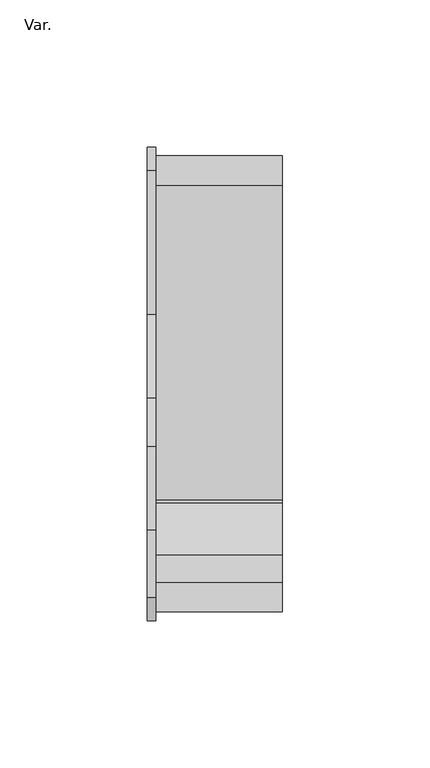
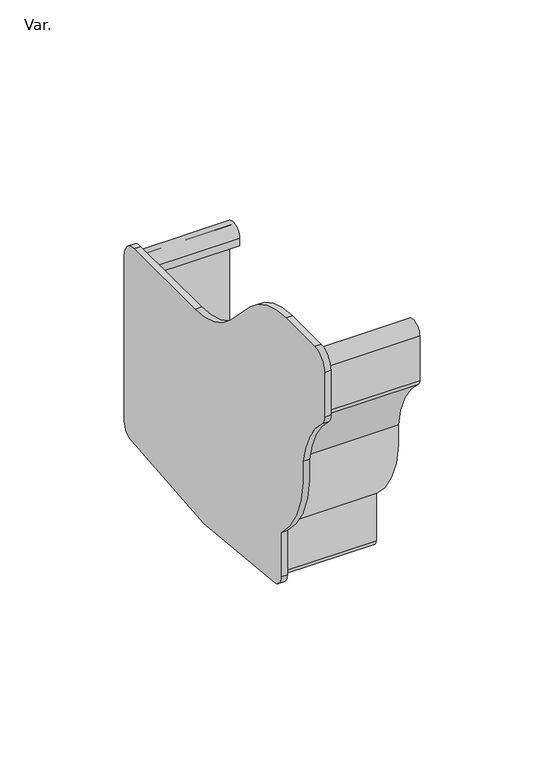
"""IFC4 building model written with IfcOpenShell, lengths in millimetres: pipe fitting geometry, PavcoWavin_UnionesDeTuberia_Canal Amazona_Tapa Izquierda Interna : Var.."""

import ifcopenshell
import ifcopenshell.guid

model = None  # the IFC model being written
_history = None  # IfcOwnerHistory: only IFC2X3 demands one
_inside = {}  # id of a spatial element -> (the spatial element, [elements in it])
_under = {}  # id of a project, library or spatial element -> (it, [spatial elements below it])
_declared = {}  # id of a project -> (the project, [libraries it declares])
_typed = {}  # id of a type object -> (the type object, [elements of that type])
_made_of = {}  # id of a material, layer set ... -> (it, [elements and type objects made of it])


def new_model(schema):
    """Start an empty IFC model of exactly this schema.

    Asked for "IFC4X3", IfcOpenShell would pick the latest addendum, in which some entities
    have other attributes; the version numbers below select the first issue.
    IFC2X3 requires an IfcOwnerHistory on every rooted entity: one is made here for all.
    """
    global model, _history
    if schema == "IFC4X3":
        model = ifcopenshell.file(schema_version=(4, 3, 0, 0))
    else:
        model = ifcopenshell.file(schema=schema)
    _inside.clear()
    _under.clear()
    _declared.clear()
    _typed.clear()
    _made_of.clear()
    _history = None
    if model.schema == "IFC2X3":
        org = make("IfcOrganization", Name="unknown")
        user = make(
            "IfcPersonAndOrganization",
            ThePerson=make("IfcPerson", FamilyName="unknown"),
            TheOrganization=org,
        )
        app = make(
            "IfcApplication",
            ApplicationDeveloper=org,
            Version="unknown",
            ApplicationFullName="unknown",
            ApplicationIdentifier="unknown",
        )
        _history = make(
            "IfcOwnerHistory",
            OwningUser=user,
            OwningApplication=app,
            ChangeAction="ADDED",
            CreationDate=0,
        )
    return model


def make(cls, **values):
    """One entity of the class cls with the attributes given. An attribute that is None is left unset."""
    return model.create_entity(
        cls, **{name: value for name, value in values.items() if value is not None}
    )


def rooted(cls, **values):
    """An entity with a GlobalId (a new one), such as an element, a storey or a relation."""
    return make(cls, GlobalId=ifcopenshell.guid.new(), OwnerHistory=_history, **values)


def si_unit(unit_type, name, prefix=None):
    """IfcSIUnit, for example si_unit("LENGTHUNIT", "METRE", prefix="MILLI")."""
    return make("IfcSIUnit", UnitType=unit_type, Prefix=prefix, Name=name)


def assignment(units):
    """IfcUnitAssignment: the units of a project."""
    return None if units is None else make("IfcUnitAssignment", Units=units)


def point(xyz):
    """IfcCartesianPoint."""
    return None if xyz is None else make("IfcCartesianPoint", Coordinates=xyz)


def direction(xyz):
    """IfcDirection."""
    return None if xyz is None else make("IfcDirection", DirectionRatios=xyz)


def frame(location, z_axis=None, x_axis=None):
    """IfcAxis2Placement3D, a coordinate frame: its origin and axes. An axis left out is left unset."""
    return make(
        "IfcAxis2Placement3D",
        Location=point(location),
        Axis=direction(z_axis),
        RefDirection=direction(x_axis),
    )


def frame_2d(location, x_axis=None):
    """IfcAxis2Placement2D, a coordinate frame in the plane: its origin and x axis."""
    return make(
        "IfcAxis2Placement2D", Location=point(location), RefDirection=direction(x_axis)
    )


def origin():
    """The frame at (0, 0, 0) with its axes left unset."""
    return frame((0.0, 0.0, 0.0))


def place(relative_to, where):
    """IfcLocalPlacement: puts the frame where relative to a parent placement (None: the world)."""
    return make(
        "IfcLocalPlacement", PlacementRelTo=relative_to, RelativePlacement=where
    )


def context(
    kind, dimensions, precision=None, world=None, true_north=None, identifier=None
):
    """IfcGeometricRepresentationContext, for example the 3D "Model" context."""
    return make(
        "IfcGeometricRepresentationContext",
        ContextIdentifier=identifier,
        ContextType=kind,
        CoordinateSpaceDimension=dimensions,
        Precision=precision,
        WorldCoordinateSystem=world,
        TrueNorth=true_north,
    )


def project(units=None, contexts=None):
    """IfcProject with its units and contexts."""
    return rooted(
        "IfcProject",
        Name="project",
        RepresentationContexts=contexts,
        UnitsInContext=assignment(units),
    )


def spatial(cls, under=None, at=None, **own):
    """A site, building, storey or space (cls), placed at a placement, below another one or the project."""
    s = rooted(cls, ObjectPlacement=at, **own)
    if under is not None:
        _under.setdefault(under.id(), (under, []))[1].append(s)
    return s


def polyline(points):
    """IfcPolyline through the points."""
    return make("IfcPolyline", Points=[point(p) for p in points])


def circle_curve(where, radius):
    """IfcCircle in the frame where."""
    return make("IfcCircle", Position=where, Radius=radius)


def trimmed(basis, trim1, trim2, sense, master):
    """IfcTrimmedCurve: the piece of a basis curve between two trims."""
    return make(
        "IfcTrimmedCurve",
        BasisCurve=basis,
        Trim1=trim1,
        Trim2=trim2,
        SenseAgreement=sense,
        MasterRepresentation=master,
    )


def segment(curve, same_sense, transition):
    """IfcCompositeCurveSegment."""
    return make(
        "IfcCompositeCurveSegment",
        Transition=transition,
        SameSense=same_sense,
        ParentCurve=curve,
    )


def composite_curve(segments, self_intersect=None):
    """IfcCompositeCurve: segments joined end to end."""
    return make("IfcCompositeCurve", Segments=segments, SelfIntersect=self_intersect)


def outline(outer, holes=None, kind="AREA"):
    """IfcArbitraryClosedProfileDef: a profile drawn as a closed curve; with holes, ...WithVoids."""
    if holes is None:
        return make("IfcArbitraryClosedProfileDef", ProfileType=kind, OuterCurve=outer)
    return make(
        "IfcArbitraryProfileDefWithVoids",
        ProfileType=kind,
        OuterCurve=outer,
        InnerCurves=holes,
    )


def extrude(swept, where, along, depth):
    """IfcExtrudedAreaSolid: the profile swept, set in the frame where, extruded along a direction by depth."""
    return make(
        "IfcExtrudedAreaSolid",
        SweptArea=swept,
        Position=where,
        ExtrudedDirection=direction(along),
        Depth=depth,
    )


def shape(context_of_items, identifier, shape_type, items):
    """IfcShapeRepresentation: the items that make up one representation, for example the "Body"."""
    return make(
        "IfcShapeRepresentation",
        ContextOfItems=context_of_items,
        RepresentationIdentifier=identifier,
        RepresentationType=shape_type,
        Items=items,
    )


def source(mapping_origin, context_of_items, identifier, shape_type, items):
    """IfcRepresentationMap: a shape defined once, which mapped items show again and again."""
    return make(
        "IfcRepresentationMap",
        MappingOrigin=mapping_origin,
        MappedRepresentation=shape(context_of_items, identifier, shape_type, items),
    )


def transform(
    local_origin,
    x_axis=None,
    y_axis=None,
    z_axis=None,
    scale=None,
    scale2=None,
    scale3=None,
    uniform=True,
):
    """IfcCartesianTransformationOperator3D, or its non-uniform kind. x_axis, y_axis, z_axis: its Axis1, 2, 3."""
    if uniform:
        return make(
            "IfcCartesianTransformationOperator3D",
            Axis1=direction(x_axis),
            Axis2=direction(y_axis),
            LocalOrigin=point(local_origin),
            Scale=scale,
            Axis3=direction(z_axis),
        )
    return make(
        "IfcCartesianTransformationOperator3DnonUniform",
        Axis1=direction(x_axis),
        Axis2=direction(y_axis),
        LocalOrigin=point(local_origin),
        Scale=scale,
        Axis3=direction(z_axis),
        Scale2=scale2,
        Scale3=scale3,
    )


def mapped(mapping_source, mapping_target):
    """IfcMappedItem: shows the shape of a source again, moved by a transform."""
    return make(
        "IfcMappedItem", MappingSource=mapping_source, MappingTarget=mapping_target
    )


def made_of(thing, what):
    """Note that an element or type object is made of a material, layer set ...; save() writes the relation."""
    if what is not None:
        _made_of.setdefault(what.id(), (what, []))[1].append(thing)
    return thing


def element(
    cls,
    number,
    at=None,
    inside=None,
    cuts=None,
    type_object=None,
    material=None,
    context=None,
    identifier="Body",
    shape_type=None,
    held_by="IfcProductDefinitionShape",
    body=None,
    shapes=None,
    **own,
):
    """One element of the class cls, such as IfcWall. Its Tag is "e" and its number.

    at: its placement. inside: the storey or other place that contains it. cuts: it is an
    opening in that element (IfcRelVoidsElement). A single representation is given by context,
    identifier, shape_type and body (its items); several are given by shapes. held_by: the class
    of the entity that holds the representations. save() writes the other relations.
    """
    e = rooted(cls, Tag="e%d" % number, ObjectPlacement=at, **own)
    if body is not None:
        shapes = [shape(context, identifier, shape_type, body)]
    if shapes is not None:
        e.Representation = make(held_by, Representations=shapes)
    if inside is not None:
        _inside.setdefault(inside.id(), (inside, []))[1].append(e)
    if cuts is not None:
        rooted(
            "IfcRelVoidsElement", RelatingBuildingElement=cuts, RelatedOpeningElement=e
        )
    if type_object is not None:
        _typed.setdefault(type_object.id(), (type_object, []))[1].append(e)
    return made_of(e, material)


def aggregate(whole, parts):
    """IfcRelAggregates: a whole, such as a stair, and the parts it consists of."""
    return rooted("IfcRelAggregates", RelatingObject=whole, RelatedObjects=parts)


def save(model, path):
    """Write the relations noted so far, then the file.

    IfcRelAggregates (storeys below a building ...), IfcRelContainedInSpatialStructure (elements
    in a storey), IfcRelDefinesByType, IfcRelAssociatesMaterial and IfcRelDeclares: one each for
    every whole, place, type object, material and project.
    """
    for whole, parts in _under.values():
        aggregate(whole, parts)
    for where, things in _inside.values():
        rooted(
            "IfcRelContainedInSpatialStructure",
            RelatedElements=things,
            RelatingStructure=where,
        )
    for kind, things in _typed.values():
        rooted("IfcRelDefinesByType", RelatedObjects=things, RelatingType=kind)
    for what, things in _made_of.values():
        rooted("IfcRelAssociatesMaterial", RelatedObjects=things, RelatingMaterial=what)
    for by, libraries in _declared.values():
        rooted("IfcRelDeclares", RelatingContext=by, RelatedDefinitions=libraries)
    model.write(path)


def plane_surface(at):
    """IfcPlane: the flat surface through the origin of the frame at, square to its z axis."""
    return make("IfcPlane", Position=at)


def cylinder_surface(at, radius):
    """IfcCylindricalSurface: all points at the distance radius from the z axis of the frame at."""
    return make("IfcCylindricalSurface", Position=at, Radius=radius)


def revolved_surface(curve, axis_point, axis_direction):
    """IfcSurfaceOfRevolution: the curve turned about the line through axis_point along axis_direction."""
    return make(
        "IfcSurfaceOfRevolution",
        SweptCurve=make("IfcArbitraryOpenProfileDef", ProfileType="CURVE", Curve=curve),
        AxisPosition=make("IfcAxis1Placement", Location=point(axis_point), Axis=direction(axis_direction)),
    )


def advanced_brep(points, edges, surfaces, faces):
    """IfcAdvancedBrep: a solid bounded by faces that lie on surfaces and meet in shared edges.

    An edge is (start, end): straight between two places in points (the first is 0);
    or (start, end, curve); or (start, end, curve, False) where it runs against its curve.
    A face is (place in surfaces, loops), or (place, loops, False) where it looks against
    its surface's normal. A loop lists edges by number (the first is 1), with a minus sign
    where the edge is run from its end to its start. The first loop is the outer one.
    """
    corners = [point(p) for p in points]
    vertices = [make("IfcVertexPoint", VertexGeometry=c) for c in corners]
    made = []
    for start, end, *more in edges:
        made.append(
            make(
                "IfcEdgeCurve",
                EdgeStart=vertices[start],
                EdgeEnd=vertices[end],
                EdgeGeometry=more[0] if more else make("IfcPolyline", Points=[corners[start], corners[end]]),
                SameSense=more[1] if len(more) > 1 else True,
            )
        )
    hull = []
    for where, loops, *sense in faces:
        bounds = []
        for j, loop in enumerate(loops):
            ring = [make("IfcOrientedEdge", EdgeElement=made[abs(k) - 1], Orientation=k > 0) for k in loop]
            bounds.append(
                make(
                    "IfcFaceOuterBound" if j == 0 else "IfcFaceBound",
                    Bound=make("IfcEdgeLoop", EdgeList=ring),
                    Orientation=True,
                )
            )
        hull.append(make("IfcAdvancedFace", Bounds=bounds, FaceSurface=surfaces[where], SameSense=sense[0] if sense else True))
    return make("IfcAdvancedBrep", Outer=make("IfcClosedShell", CfsFaces=hull))


def var_36fa4123(model_context):
    return source(origin(), model_context, "Body", "SolidModel", [
        advanced_brep(
        [(0.0, -94.9989921, 111.0486649), (0.0, -93.940635, 108.7617406), (0.0, -77.6828618, 78.8439654), (0.0, -60.0039671, 34.5505696), (0.0, -60.0039671, 11.3633151), (0.0, -57.2572572, 8.3722749), (0.0, 56.378077, 8.3722749), (0.0, 59.996016, 11.3079437), (0.0, 59.996016, 92.9938034), (0.0, 49.996016, 92.9938034), (0.0, 49.996016, 89.3467624), (0.0, 51.9960234, 89.3467624), (0.0, 51.9960234, 92.9985197), (0.0, 57.9960308, 92.9983135), (0.0, 57.9904165, 11.3142316), (0.0, 56.5270093, 10.4373059), (0.0, -56.8822231, 10.3367976), (0.0, -58.0059262, 11.3722929), (0.0, -58.0059262, 35.5015053), (0.0, -75.6670061, 78.8566465), (0.0, -92.6365254, 110.2778528), (0.0, -92.999007, 111.0421133), (0.0, -92.999007, 133.0025909), (0.0, -86.9989995, 133.0025909), (0.0, -86.9989995, 129.3508337), (0.0, -84.9989921, 129.3508337), (0.0, -84.9989921, 132.9978746), (0.0, -94.9989921, 132.9978746), (-43.0, -94.9989921, 111.0486649), (-43.0, -94.9989921, 132.9978746), (-43.0, -84.9989921, 132.9978746), (-43.0, -84.9989921, 129.3508337), (-43.0, -86.9989995, 129.3508337), (-43.0, -86.9989995, 133.0025909), (-43.0, -92.999007, 133.0025909), (-43.0, -92.999007, 111.0421133), (-43.0, -92.6365254, 110.2778528), (-43.0, -75.6670061, 78.8566465), (-43.0, -58.0059262, 35.5015053), (-43.0, -58.0059262, 11.3722929), (-43.0, -57.008064, 10.3744306), (-43.0, 56.5270093, 10.4373059), (-43.0, 57.9904165, 11.3142316), (-43.0, 57.9960308, 92.9983135), (-43.0, 51.9960234, 92.9985197), (-43.0, 51.9960234, 89.3467624), (-43.0, 49.996016, 89.3467624), (-43.0, 49.996016, 92.9938034), (-43.0, 59.996016, 92.9938034), (-43.0, 59.996016, 11.3079437), (-43.0, 56.378077, 8.3722749), (-43.0, -57.2572572, 8.3722749), (-43.0, -60.0039671, 11.3633151), (-43.0, -60.0039671, 34.5505696), (-43.0, -77.6828618, 78.8439654), (-43.0, -93.940635, 108.7617406)],
        [
            (0, 1, circle_curve(frame((0.0, -91.9989921, 111.0486649), z_axis=(1.0, 0.0, 0.0), x_axis=(0.0, 1.0, 0.0)), 3.0)),
            (1, 2, circle_curve(frame((0.0, -124.4825808, 72.7885355), z_axis=(-1.0, 0.0, 0.0), x_axis=(0.0, 1.0, 0.0)), 47.1898499)),
            (2, 3, circle_curve(frame((0.0, -28.0269195, 72.9884211), z_axis=(1.0, 0.0, 0.0), x_axis=(0.0, 1.0, 0.0)), 50.0)),
            (3, 4),
            (4, 5, circle_curve(frame((0.0, -57.0020598, 11.3633151), z_axis=(1.0, 0.0, 0.0), x_axis=(0.0, 1.0, 0.0)), 3.0019073)),
            (5, 6, circle_curve(frame((0.0, -0.4395901, 305.9974632), z_axis=(1.0, 0.0, 0.0), x_axis=(0.0, 1.0, 0.0)), 303.0)),
            (6, 7, circle_curve(frame((0.0, 56.996016, 11.3079437), z_axis=(1.0, 0.0, 0.0), x_axis=(0.0, 1.0, 0.0)), 3.0)),
            (7, 8),
            (8, 9, circle_curve(frame((0.0, 54.996016, 92.9938034), z_axis=(1.0, 0.0, 0.0), x_axis=(0.0, 1.0, 0.0)), 5.0)),
            (9, 10),
            (10, 11),
            (11, 12),
            (12, 13, circle_curve(frame((0.0, 54.9960271, 92.9985197), z_axis=(-1.0, 0.0, 0.0), x_axis=(0.0, 1.0, 0.0)), 3.0000037)),
            (13, 14),
            (14, 15, circle_curve(frame((0.0, 56.9959294, 11.3143), z_axis=(-1.0, 0.0, 0.0), x_axis=(0.0, 1.0, 0.0)), 0.9944871)),
            (15, 16, circle_curve(frame((0.0, -0.4395901, 305.9974632), z_axis=(-1.0, 0.0, 0.0), x_axis=(0.0, 1.0, 0.0)), 301.0)),
            (16, 17, circle_curve(frame((0.0, -57.008064, 11.3722929), z_axis=(-1.0, 0.0, 0.0), x_axis=(0.0, 1.0, 0.0)), 0.9978622)),
            (17, 18),
            (18, 19, circle_curve(frame((0.0, -28.0269983, 72.9884376), z_axis=(-1.0, 0.0, 0.0), x_axis=(0.0, 1.0, 0.0)), 48.0000647)),
            (19, 20, circle_curve(frame((0.0, -125.2449385, 72.3742318), z_axis=(1.0, 0.0, 0.0), x_axis=(0.0, 1.0, 0.0)), 49.9999308)),
            (20, 21, circle_curve(frame((0.0, -92.0120781, 111.0421133), z_axis=(-1.0, 0.0, 0.0), x_axis=(0.0, 1.0, 0.0)), 0.9869289)),
            (21, 22),
            (22, 23, circle_curve(frame((0.0, -89.9990033, 133.0025909), z_axis=(-1.0, 0.0, 0.0), x_axis=(0.0, 1.0, 0.0)), 3.0000037)),
            (23, 24),
            (24, 25),
            (25, 26),
            (26, 27, circle_curve(frame((0.0, -89.9989921, 132.9978746), z_axis=(1.0, 0.0, 0.0), x_axis=(0.0, 1.0, 0.0)), 5.0)),
            (27, 0),
            (28, 29),
            (29, 30, circle_curve(frame((-43.0, -89.9989921, 132.9978746), z_axis=(-1.0, 0.0, 0.0), x_axis=(0.0, 1.0, 0.0)), 5.0)),
            (30, 31),
            (31, 32),
            (32, 33),
            (33, 34, circle_curve(frame((-43.0, -89.9990033, 133.0025909), z_axis=(1.0, 0.0, 0.0), x_axis=(0.0, 1.0, 0.0)), 3.0000037)),
            (34, 35),
            (35, 36, circle_curve(frame((-43.0, -92.0120781, 111.0421133), z_axis=(1.0, 0.0, 0.0), x_axis=(0.0, 1.0, 0.0)), 0.9869289)),
            (36, 37, circle_curve(frame((-43.0, -125.2449385, 72.3742318), z_axis=(-1.0, 0.0, 0.0), x_axis=(0.0, 1.0, 0.0)), 49.9999308)),
            (37, 38, circle_curve(frame((-43.0, -28.0269983, 72.9884376), z_axis=(1.0, 0.0, 0.0), x_axis=(0.0, 1.0, 0.0)), 48.0000647)),
            (38, 39),
            (39, 40, circle_curve(frame((-43.0, -57.008064, 11.3722929), z_axis=(1.0, 0.0, 0.0), x_axis=(0.0, 1.0, 0.0)), 0.9978622)),
            (40, 41, circle_curve(frame((-43.0, -0.4395901, 305.9974632), z_axis=(1.0, 0.0, 0.0), x_axis=(0.0, 1.0, 0.0)), 301.0)),
            (41, 42, circle_curve(frame((-43.0, 56.9959294, 11.3143), z_axis=(1.0, 0.0, 0.0), x_axis=(0.0, 1.0, 0.0)), 0.9944871)),
            (42, 43),
            (43, 44, circle_curve(frame((-43.0, 54.9960271, 92.9985197), z_axis=(1.0, 0.0, 0.0), x_axis=(0.0, 1.0, 0.0)), 3.0000037)),
            (44, 45),
            (45, 46),
            (46, 47),
            (47, 48, circle_curve(frame((-43.0, 54.996016, 92.9938034), z_axis=(-1.0, 0.0, 0.0), x_axis=(0.0, 1.0, 0.0)), 5.0)),
            (48, 49),
            (49, 50, circle_curve(frame((-43.0, 56.996016, 11.3079437), z_axis=(-1.0, 0.0, 0.0), x_axis=(0.0, 1.0, 0.0)), 3.0)),
            (50, 51, circle_curve(frame((-43.0, -0.4395901, 305.9974632), z_axis=(-1.0, 0.0, 0.0), x_axis=(0.0, 1.0, 0.0)), 303.0)),
            (51, 52, circle_curve(frame((-43.0, -57.0020598, 11.3633151), z_axis=(-1.0, 0.0, 0.0), x_axis=(0.0, 1.0, 0.0)), 3.0019073)),
            (52, 53),
            (53, 54, circle_curve(frame((-43.0, -28.0269195, 72.9884211), z_axis=(-1.0, 0.0, 0.0), x_axis=(0.0, 1.0, 0.0)), 50.0)),
            (54, 55, circle_curve(frame((-43.0, -124.4825808, 72.7885355), z_axis=(1.0, 0.0, 0.0), x_axis=(0.0, 1.0, 0.0)), 47.1898499)),
            (55, 28, circle_curve(frame((-43.0, -91.9989921, 111.0486649), z_axis=(-1.0, 0.0, 0.0), x_axis=(0.0, 1.0, 0.0)), 3.0)),
            (0, 28),
            (55, 1),
            (54, 2),
            (53, 3),
            (52, 4),
            (51, 5),
            (50, 6),
            (49, 7),
            (48, 8),
            (47, 9),
            (46, 10),
            (45, 11),
            (44, 12),
            (43, 13),
            (42, 14),
            (41, 15),
            (40, 16),
            (39, 17),
            (38, 18),
            (37, 19),
            (36, 20),
            (35, 21),
            (34, 22),
            (33, 23),
            (32, 24),
            (31, 25),
            (30, 26),
            (29, 27),
        ],
        [
            plane_surface(frame((0.0, -88.9989921, 111.0486649), z_axis=(1.0, 0.0, 0.0), x_axis=(0.0, 0.0, 1.0))),
            plane_surface(frame((-43.0, -88.9989921, 111.0486649), z_axis=(-1.0, 0.0, 0.0), x_axis=(0.0, 0.0, -1.0))),
            cylinder_surface(frame((-43.0, -91.9989921, 111.0486649), z_axis=(1.0, 0.0, 0.0), x_axis=(0.0, 1.0, 0.0)), 3.0),
            revolved_surface(polyline([(-43.0, -77.2927309, 72.7885355), (0.0, -77.2927309, 72.7885355)]), (-43.0, -124.4825808, 72.7885355), (-1.0, 0.0, 0.0)),
            cylinder_surface(frame((-43.0, -28.0269195, 72.9884211), z_axis=(1.0, 0.0, 0.0), x_axis=(0.0, 1.0, 0.0)), 50.0),
            plane_surface(frame((0.0, -60.0039671, 34.5505696), z_axis=(0.0, -1.0, 0.0), x_axis=(-1.0, 0.0, 0.0))),
            cylinder_surface(frame((-43.0, -57.0020598, 11.3633151), z_axis=(1.0, 0.0, 0.0), x_axis=(0.0, 1.0, 0.0)), 3.0019073),
            cylinder_surface(frame((-43.0, -0.4395901, 305.9974632), z_axis=(1.0, 0.0, 0.0), x_axis=(0.0, 1.0, 0.0)), 303.0),
            cylinder_surface(frame((-43.0, 56.996016, 11.3079437), z_axis=(1.0, 0.0, 0.0), x_axis=(0.0, 1.0, 0.0)), 3.0),
            plane_surface(frame((0.0, 59.996016, 11.3079437), z_axis=(0.0, 1.0, 0.0), x_axis=(-1.0, 0.0, 0.0))),
            cylinder_surface(frame((-43.0, 54.996016, 92.9938034), z_axis=(1.0, 0.0, 0.0), x_axis=(0.0, 1.0, 0.0)), 5.0),
            plane_surface(frame((0.0, 49.996016, 92.9938034), z_axis=(0.0, -1.0, 0.0), x_axis=(-1.0, 0.0, 0.0))),
            plane_surface(frame((0.0, 49.996016, 89.3467624), z_axis=(0.0, 0.0, -1.0), x_axis=(-1.0, 0.0, 0.0))),
            plane_surface(frame((0.0, 51.9960234, 89.3467624), z_axis=(0.0, 1.0, 0.0), x_axis=(-1.0, 0.0, 0.0))),
            revolved_surface(polyline([(-43.0, 57.9960308, 92.9985197), (0.0, 57.9960308, 92.9985197)]), (-43.0, 54.9960271, 92.9985197), (-1.0, 0.0, 0.0)),
            plane_surface(frame((0.0, 57.9960308, 92.9983135), z_axis=(0.0, -0.9999999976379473, 6.873212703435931e-05), x_axis=(-1.0, 0.0, 0.0))),
            revolved_surface(polyline([(-43.0, 57.9904165, 11.3143), (0.0, 57.9904165, 11.3143)]), (-43.0, 56.9959294, 11.3143), (-1.0, 0.0, 0.0)),
            revolved_surface(polyline([(-43.0, 300.5604099, 305.9974632), (0.0, 300.5604099, 305.9974632)]), (-43.0, -0.4395901, 305.9974632), (-1.0, 0.0, 0.0)),
            revolved_surface(polyline([(-43.0, -56.0102018, 11.3722929), (0.0, -56.0102018, 11.3722929)]), (-43.0, -57.008064, 11.3722929), (-1.0, 0.0, 0.0)),
            plane_surface(frame((0.0, -58.0059262, 11.3722929), z_axis=(0.0, 1.0, 0.0), x_axis=(-1.0, 0.0, 0.0))),
            revolved_surface(polyline([(-43.0, 19.973066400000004, 72.9884376), (0.0, 19.973066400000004, 72.9884376)]), (-43.0, -28.0269983, 72.9884376), (-1.0, 0.0, 0.0)),
            cylinder_surface(frame((-43.0, -125.2449385, 72.3742318), z_axis=(1.0, 0.0, 0.0), x_axis=(0.0, 1.0, 0.0)), 49.9999308),
            revolved_surface(polyline([(-43.0, -91.0251492, 111.0421133), (0.0, -91.0251492, 111.0421133)]), (-43.0, -92.0120781, 111.0421133), (-1.0, 0.0, 0.0)),
            plane_surface(frame((0.0, -92.999007, 111.0421133), z_axis=(0.0, 1.0, 0.0), x_axis=(-1.0, 0.0, 0.0))),
            revolved_surface(polyline([(-43.0, -86.9989996, 133.0025909), (0.0, -86.9989996, 133.0025909)]), (-43.0, -89.9990033, 133.0025909), (-1.0, 0.0, 0.0)),
            plane_surface(frame((0.0, -86.9989995, 133.0025909), z_axis=(0.0, -1.0, 0.0), x_axis=(-1.0, 0.0, 0.0))),
            plane_surface(frame((0.0, -86.9989995, 129.3508337), z_axis=(0.0, 0.0, -1.0), x_axis=(-1.0, 0.0, 0.0))),
            plane_surface(frame((0.0, -84.9989921, 129.3508337), z_axis=(0.0, 1.0, 0.0), x_axis=(-1.0, 0.0, 0.0))),
            cylinder_surface(frame((-43.0, -89.9989921, 132.9978746), z_axis=(1.0, 0.0, 0.0), x_axis=(0.0, 1.0, 0.0)), 5.0),
            plane_surface(frame((0.0, -94.9989921, 132.9978746), z_axis=(0.0, -1.0, 0.0), x_axis=(-1.0, 0.0, 0.0))),
        ],
        [
            (0, [[1, 2, 3, 4, 5, 6, 7, 8, 9, 10, 11, 12, 13, 14, 15, 16, 17, 18, 19, 20, 21, 22, 23, 24, 25, 26, 27, 28]]),
            (1, [[29, 30, 31, 32, 33, 34, 35, 36, 37, 38, 39, 40, 41, 42, 43, 44, 45, 46, 47, 48, 49, 50, 51, 52, 53, 54, 55, 56]]),
            (2, [[-1, 57, -56, 58]]),
            (3, [[-2, -58, -55, 59]]),
            (4, [[-3, -59, -54, 60]]),
            (5, [[-4, -60, -53, 61]]),
            (6, [[-5, -61, -52, 62]]),
            (7, [[-6, -62, -51, 63]]),
            (8, [[-7, -63, -50, 64]]),
            (9, [[-8, -64, -49, 65]]),
            (10, [[-9, -65, -48, 66]]),
            (11, [[-10, -66, -47, 67]]),
            (12, [[-11, -67, -46, 68]]),
            (13, [[-12, -68, -45, 69]]),
            (14, [[-13, -69, -44, 70]]),
            (15, [[-14, -70, -43, 71]]),
            (16, [[-15, -71, -42, 72]]),
            (17, [[-16, -72, -41, 73]]),
            (18, [[-17, -73, -40, 74]]),
            (19, [[-18, -74, -39, 75]]),
            (20, [[-19, -75, -38, 76]]),
            (21, [[-20, -76, -37, 77]]),
            (22, [[-21, -77, -36, 78]]),
            (23, [[-22, -78, -35, 79]]),
            (24, [[-23, -79, -34, 80]]),
            (25, [[-24, -80, -33, 81]]),
            (26, [[-25, -81, -32, 82]]),
            (27, [[-26, -82, -31, 83]]),
            (28, [[-27, -83, -30, 84]]),
            (29, [[-28, -84, -29, -57]]),
        ],
    ),
        extrude(outline(composite_curve([segment(polyline([(62.9960228, 92.9915139), (62.9963953, 11.418886)]), True, "CONTINUOUS"), segment(trimmed(circle_curve(frame_2d((56.9963953, 11.4188586)), 6.0), [point((62.9963953, 11.418886))], [point((56.5752995, 5.4336537))], False, "CARTESIAN"), True, "CONTINUOUS"), segment(trimmed(circle_curve(frame_2d((-0.4443464, 301.8813405)), 301.8815514), [point((56.5752995, 5.4336537))], [point((-58.1352995, 5.5635635))], False, "CARTESIAN"), True, "CONTINUOUS"), segment(trimmed(circle_curve(frame_2d((-56.9850527, 11.4715706)), 6.0189381), [point((-58.1352995, 5.5635635))], [point((-63.0039909, 11.4715706))], False, "CARTESIAN"), True, "CONTINUOUS"), segment(polyline([(-63.0039909, 11.4715706), (-63.0039909, 33.2464397)]), True, "CONTINUOUS"), segment(trimmed(circle_curve(frame_2d((-28.0269263, 73.0660951)), 53.0), [point((-63.0039909, 33.2464397))], [point((-80.7067572, 78.8829169))], False, "CARTESIAN"), True, "CONTINUOUS"), segment(trimmed(circle_curve(frame_2d((-128.8038892, 70.490315)), 48.8238658), [point((-80.7067572, 78.8829169))], [point((-96.0251085, 106.6748615))], True, "CARTESIAN"), True, "CONTINUOUS"), segment(trimmed(circle_curve(frame_2d((-91.9926136, 111.1263389)), 6.0063854), [point((-96.0251085, 106.6748615))], [point((-97.998999, 111.1263389))], False, "CARTESIAN"), True, "CONTINUOUS"), segment(polyline([(-97.998999, 111.1263389), (-97.998999, 132.9955486)]), True, "CONTINUOUS"), segment(trimmed(circle_curve(frame_2d((-89.998999, 132.9955486)), 8.0), [point((-97.998999, 132.9955486))], [point((-89.998999, 140.9955486))], False, "CARTESIAN"), True, "CONTINUOUS"), segment(polyline([(-89.998999, 140.9955486), (-66.990145, 140.9955486)]), True, "CONTINUOUS"), segment(trimmed(circle_curve(frame_2d((-66.990145, 100.9955486)), 40.0), [point((-66.990145, 140.9955486))], [point((-38.7058738, 129.2798199))], False, "CARTESIAN"), True, "CONTINUOUS"), segment(polyline([(-38.7058738, 129.2798199), (-22.1332601, 112.7072061)]), True, "CONTINUOUS"), segment(trimmed(circle_curve(frame_2d((6.1510111, 140.9914774)), 40.0), [point((-22.1332601, 112.7072061))], [point((6.1510111, 100.9914774))], True, "CARTESIAN"), True, "CONTINUOUS"), segment(polyline([(6.1510111, 100.9914774), (54.9960228, 100.9914774)]), True, "CONTINUOUS"), segment(trimmed(circle_curve(frame_2d((54.9960228, 92.9914774)), 8.0), [point((54.9960228, 100.9914774))], [point((62.9960228, 92.9915139))], False, "CARTESIAN"), True, "CONTINUOUS")], self_intersect=False)), frame((-46.0, 0.0, 0.0), z_axis=(1.0, 0.0, 0.0), x_axis=(0.0, 1.0, 0.0)), (0.0, 0.0, 1.0), 3.0),
    ])


if __name__ == "__main__":
    model = new_model("IFC4")
    model_context = context("Model", 3, world=origin())
    ifc_project = project(units=[si_unit("LENGTHUNIT", "METRE", prefix="MILLI")], contexts=[model_context])
    site = spatial("IfcSite", under=ifc_project)
    building = spatial("IfcBuilding", under=site)
    placement = place(None, origin())
    var_shape = var_36fa4123(model_context)
    element("IfcPipeFitting", 1, ObjectType="PavcoWavin_UnionesDeTuberia_Canal Amazona_Tapa Izquierda Interna : Var.", at=placement, inside=building, context=model_context, shape_type="MappedRepresentation", body=[
        mapped(var_shape, transform((0.0, 0.0, 0.0), x_axis=(1.0, 0.0, 0.0), y_axis=(0.0, 1.0, 0.0), z_axis=(0.0, 0.0, 1.0))),
    ])
    save(model, "model.ifc")
